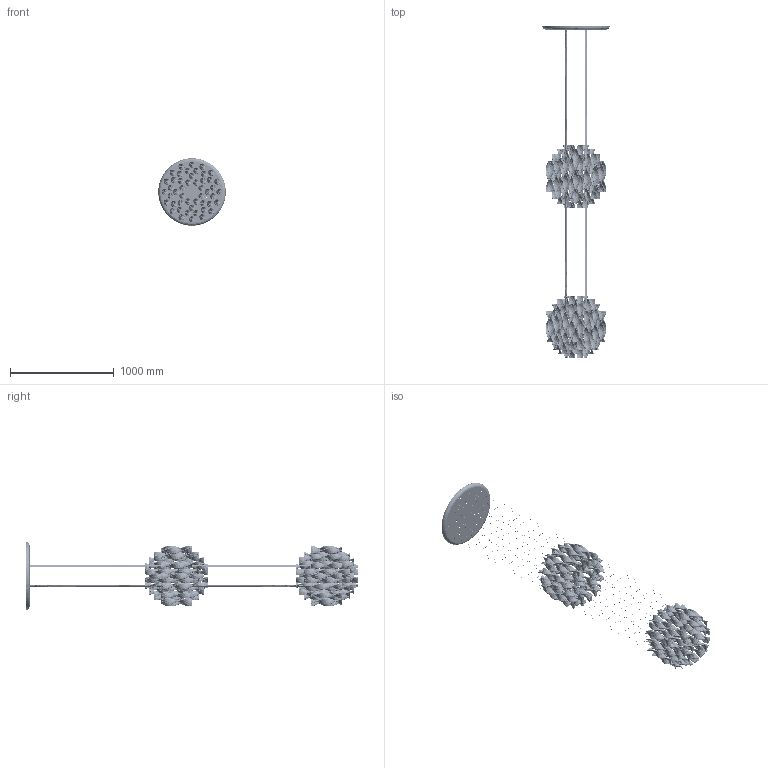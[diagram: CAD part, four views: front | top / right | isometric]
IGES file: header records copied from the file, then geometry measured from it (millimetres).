
Start section: SolidWorks IGES file using analytic representation for surfaces
Global section: file name: \\STORAGE\Tecnico Condiviso\15 PROGETTI SPECIALI\AURA\SOSPENSIONI\SPAURA60-3XXXXE27-5PLUS\SPAURAØ60-2XXXXE27-PER 3D.IGS; native system: SolidWorks 2024; preprocessor: SolidWorks 2024; author: tecnico3; date: 240529.175935; units: millimetre
Bounding box: 650 x 3200 x 650 mm (x, y, z)
Surface area: 8019474.5 mm2 (no closed solid volume)
Topology: 0 solids, 0 shells, 1904 faces, 43814 edges, 43782 vertices
Faces by surface type: bspline 1272, revolution 632
